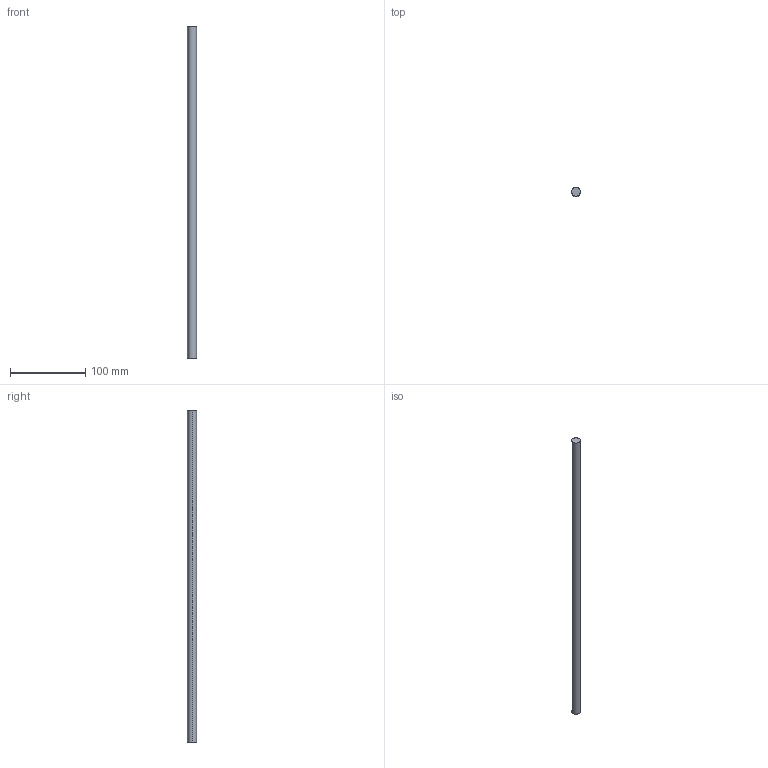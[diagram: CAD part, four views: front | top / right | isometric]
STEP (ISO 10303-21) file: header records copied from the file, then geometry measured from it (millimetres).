
FILE_DESCRIPTION (( 'STEP AP214' ), '1' );
FILE_NAME ('Magic Reling quer - S18_S19 - 550.step', '2010-09-07T14:56:12', ( 'grass' ), ( '' ), 'SwSTEP 2.0', 'SolidWorks 2010', '' );
FILE_SCHEMA (( 'AUTOMOTIVE_DESIGN' ));
Length unit declared in the file: millimetre
Products named in the file (1): Magic Reling quer - S18_S19 - 550
Bounding box: 12 x 12 x 441 mm (x, y, z)
Volume: 49875.9 mm3; surface area: 16851.5 mm2
Topology: 1 solids, 1 shells, 4 faces, 6 edges, 4 vertices
Faces by surface type: cylinder 2, plane 2
Entity records: 128 total; most frequent: DIRECTION 20, CARTESIAN_POINT 15, ORIENTED_EDGE 12, AXIS2_PLACEMENT_3D 9, EDGE_CURVE 6, EDGE_LOOP 4, FACE_OUTER_BOUND 4, CIRCLE 4
